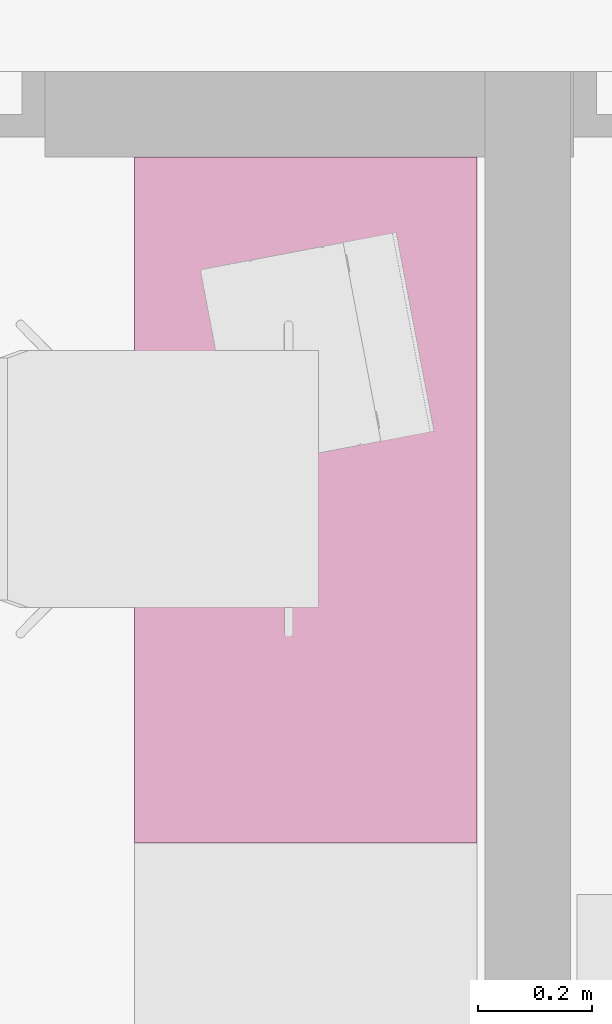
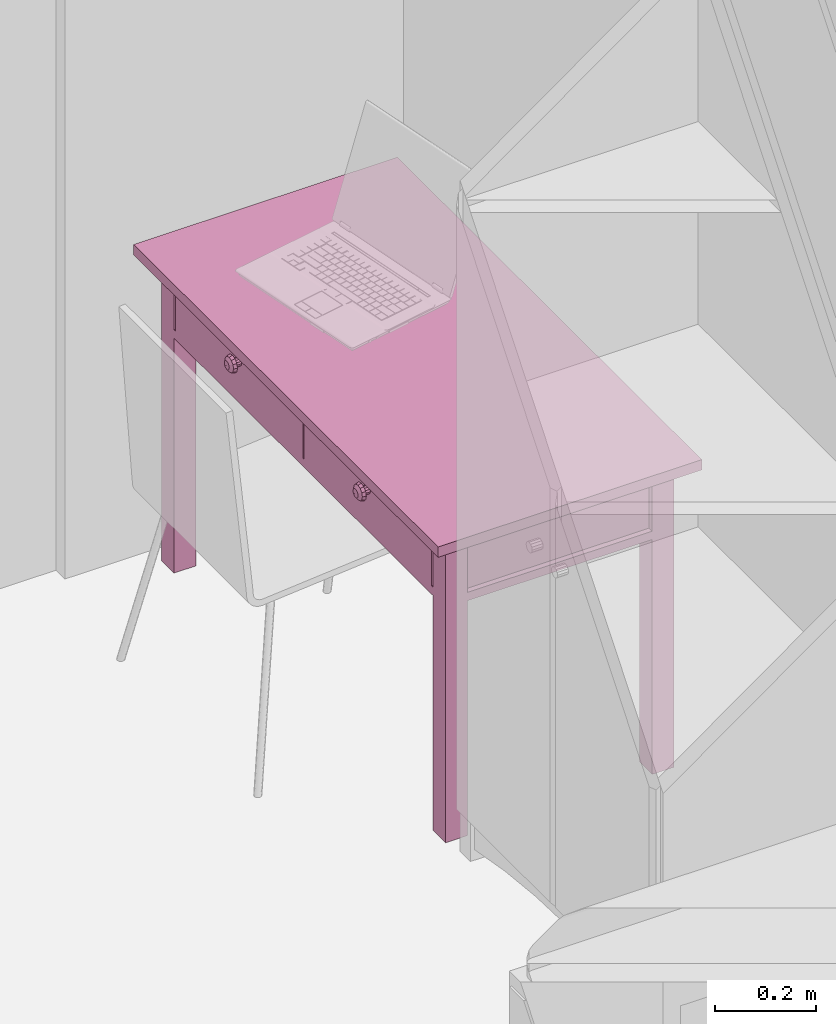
# One storey, part 106 of 165: 1 furnishing.
"""IFC2X3 building model written with IfcOpenShell, lengths in millimetres."""

from ifc_helpers import new_model, entity, si_unit, converted_unit, money_unit, direction, frame, origin_with_axes, place, context, subcontext, project, spatial, faceted_brep, source, transform, mapped, material, material_list, type_object, element, save


model = new_model("IFC2X3")

# Units and contexts
model_context = context("Model", 3, precision=1e-05, world=origin_with_axes(), true_north=direction((0.0, 1.0)))
body_context = subcontext(model_context, "Body", "Model", "MODEL_VIEW")
ifc_project = project(units=[si_unit("LENGTHUNIT", "METRE", prefix="MILLI"), si_unit("AREAUNIT", "SQUARE_METRE"), si_unit("VOLUMEUNIT", "CUBIC_METRE"), converted_unit("PLANEANGLEUNIT", "DEGREE", entity("IfcPlaneAngleMeasure", 0.0174532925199), si_unit("PLANEANGLEUNIT", "RADIAN"), dimensions=[0, 0, 0, 0, 0, 0, 0]), si_unit("SOLIDANGLEUNIT", "STERADIAN"), money_unit("USD"), converted_unit("TIMEUNIT", "Year", entity("IfcTimeMeasure", 31556926.0), si_unit("TIMEUNIT", "SECOND"), dimensions=[0, 0, 0, 0, 0, 0, 0]), si_unit("MASSUNIT", "GRAM"), si_unit("THERMODYNAMICTEMPERATUREUNIT", "DEGREE_CELSIUS"), si_unit("LUMINOUSINTENSITYUNIT", "LUMEN")], contexts=[model_context])

# Site, building, storey
site_placement = place(None, origin_with_axes())
site = spatial("IfcSite", under=ifc_project, at=site_placement, Name="Site", CompositionType="ELEMENT")
building_placement = place(site_placement, origin_with_axes())
building = spatial("IfcBuilding", under=site, at=building_placement, Name="Building", CompositionType="ELEMENT")
storey_placement = place(building_placement, frame((0.0, 0.0, 6300.0), z_axis=(0.0, 0.0, 1.0), x_axis=(1.0, 0.0, 0.0)))
storey = spatial("IfcBuildingStorey", under=building, at=storey_placement, Name="4KORRUS", CompositionType="ELEMENT", Elevation=6300.0)

# Furnishing
ifc_material = material(Name="Background")
ifc_material_list = material_list([ifc_material])
furnishing_element_type = type_object("IfcFurnishingElementType", Name="Rectangular Table 01 19")
shared_shape = source(origin_with_axes(), body_context, "Body", "Brep", [
    faceted_brep([(90.0, 40.0, 0.0), (40.0, 40.0, 0.0), (40.0, 90.0, 0.0), (90.0, 90.0, 0.0), (90.0, 40.0, 725.0), (40.0, 40.0, 725.0), (40.0, 90.0, 725.0), (90.0, 90.0, 725.0)], [[[0, 1, 2, 3]], [[1, 0, 4, 5]], [[2, 1, 5, 6]], [[3, 2, 6, 7]], [[0, 3, 7, 4]], [[5, 4, 7, 6]]]),
    faceted_brep([(1160.0, 40.0, 0.0), (1110.0, 40.0, 0.0), (1110.0, 90.0, 0.0), (1160.0, 90.0, 0.0), (1160.0, 40.0, 725.0), (1110.0, 40.0, 725.0), (1110.0, 90.0, 725.0), (1160.0, 90.0, 725.0)], [[[0, 1, 2, 3]], [[1, 0, 4, 5]], [[2, 1, 5, 6]], [[3, 2, 6, 7]], [[0, 3, 7, 4]], [[5, 4, 7, 6]]]),
    faceted_brep([(90.0, 510.0, 0.0), (40.0, 510.0, 0.0), (40.0, 560.0, 0.0), (90.0, 560.0, 0.0), (90.0, 510.0, 725.0), (40.0, 510.0, 725.0), (40.0, 560.0, 725.0), (90.0, 560.0, 725.0)], [[[0, 1, 2, 3]], [[1, 0, 4, 5]], [[2, 1, 5, 6]], [[3, 2, 6, 7]], [[0, 3, 7, 4]], [[5, 4, 7, 6]]]),
    faceted_brep([(1160.0, 510.0, 0.0), (1110.0, 510.0, 0.0), (1110.0, 560.0, 0.0), (1160.0, 560.0, 0.0), (1160.0, 510.0, 725.0), (1110.0, 510.0, 725.0), (1110.0, 560.0, 725.0), (1160.0, 560.0, 725.0)], [[[0, 1, 2, 3]], [[1, 0, 4, 5]], [[2, 1, 5, 6]], [[3, 2, 6, 7]], [[0, 3, 7, 4]], [[5, 4, 7, 6]]]),
    faceted_brep([(1160.0, 40.0, 565.0), (40.0, 40.0, 565.0), (40.0, 560.0, 565.0), (1160.0, 560.0, 565.0), (1160.0, 40.0, 585.0), (40.0, 40.0, 585.0), (40.0, 560.0, 585.0), (1160.0, 560.0, 585.0)], [[[0, 1, 2, 3]], [[1, 0, 4, 5]], [[2, 1, 5, 6]], [[3, 2, 6, 7]], [[0, 3, 7, 4]], [[5, 4, 7, 6]]]),
    faceted_brep([(1110.0, 52.5, 585.0), (90.0, 52.5, 585.0), (90.0, 77.5, 585.0), (1110.0, 77.5, 585.0), (1110.0, 52.5, 745.0), (90.0, 52.5, 745.0), (90.0, 77.5, 745.0), (1110.0, 77.5, 745.0)], [[[0, 1, 2, 3]], [[1, 0, 4, 5]], [[2, 1, 5, 6]], [[3, 2, 6, 7]], [[0, 3, 7, 4]], [[5, 4, 7, 6]]]),
    faceted_brep([(77.5, 90.0, 585.0), (52.5, 90.0, 585.0), (52.5, 510.0, 585.0), (77.5, 510.0, 585.0), (77.5, 90.0, 745.0), (52.5, 90.0, 745.0), (52.5, 510.0, 745.0), (77.5, 510.0, 745.0)], [[[0, 1, 2, 3]], [[1, 0, 4, 5]], [[2, 1, 5, 6]], [[3, 2, 6, 7]], [[0, 3, 7, 4]], [[5, 4, 7, 6]]]),
    faceted_brep([(90.0, 547.5, 585.0), (1110.0, 547.5, 585.0), (1110.0, 522.5, 585.0), (90.0, 522.5, 585.0), (90.0, 547.5, 745.0), (1110.0, 547.5, 745.0), (1110.0, 522.5, 745.0), (90.0, 522.5, 745.0)], [[[0, 1, 2, 3]], [[1, 0, 4, 5]], [[2, 1, 5, 6]], [[3, 2, 6, 7]], [[0, 3, 7, 4]], [[5, 4, 7, 6]]]),
    faceted_brep([(1122.5, 510.0, 585.0), (1147.5, 510.0, 585.0), (1147.5, 90.0, 585.0), (1122.5, 90.0, 585.0), (1122.5, 510.0, 745.0), (1147.5, 510.0, 745.0), (1147.5, 90.0, 745.0), (1122.5, 90.0, 745.0)], [[[0, 1, 2, 3]], [[1, 0, 4, 5]], [[2, 1, 5, 6]], [[3, 2, 6, 7]], [[0, 3, 7, 4]], [[5, 4, 7, 6]]]),
    faceted_brep([(597.5, 40.0, 585.0), (95.0, 40.0, 585.0), (95.0, 60.0, 585.0), (597.5, 60.0, 585.0), (597.5, 40.0, 745.0), (95.0, 40.0, 745.0), (95.0, 60.0, 745.0), (597.5, 60.0, 745.0)], [[[0, 1, 2, 3]], [[1, 0, 4, 5]], [[2, 1, 5, 6]], [[3, 2, 6, 7]], [[0, 3, 7, 4]], [[5, 4, 7, 6]]]),
    faceted_brep([(1105.0, 40.0, 585.0), (602.5, 40.0, 585.0), (602.5, 60.0, 585.0), (1105.0, 60.0, 585.0), (1105.0, 40.0, 745.0), (602.5, 40.0, 745.0), (602.5, 60.0, 745.0), (1105.0, 60.0, 745.0)], [[[0, 1, 2, 3]], [[1, 0, 4, 5]], [[2, 1, 5, 6]], [[3, 2, 6, 7]], [[0, 3, 7, 4]], [[5, 4, 7, 6]]]),
    faceted_brep([(354.91, 40.0, 660.0), (351.25, 40.0, 656.34), (346.25, 40.0, 655.0), (341.25, 40.0, 656.34), (337.59, 40.0, 660.0), (336.25, 40.0, 665.0), (337.59, 40.0, 670.0), (341.25, 40.0, 673.66), (346.25, 40.0, 675.0), (351.25, 40.0, 673.66), (354.91, 40.0, 670.0), (356.25, 40.0, 665.0), (354.91, 25.0, 660.0), (351.25, 25.0, 656.34), (346.25, 25.0, 655.0), (341.25, 25.0, 656.34), (337.59, 25.0, 660.0), (336.25, 25.0, 665.0), (337.59, 25.0, 670.0), (341.25, 25.0, 673.66), (346.25, 25.0, 675.0), (351.25, 25.0, 673.66), (354.91, 25.0, 670.0), (356.25, 25.0, 665.0)], [[[0, 1, 2, 3, 4, 5, 6, 7, 8, 9, 10, 11]], [[1, 0, 12, 13]], [[2, 1, 13, 14]], [[3, 2, 14, 15]], [[4, 3, 15, 16]], [[5, 4, 16, 17]], [[6, 5, 17, 18]], [[7, 6, 18, 19]], [[8, 7, 19, 20]], [[9, 8, 20, 21]], [[10, 9, 21, 22]], [[11, 10, 22, 23]], [[0, 11, 23, 12]], [[12, 23, 22, 21, 20, 19, 18, 17, 16, 15, 14, 13]]]),
    faceted_brep([(356.25, 12.01, 665.0), (346.25, 10.0, 665.0), (354.91, 12.01, 660.0), (354.91, 12.01, 670.0), (351.25, 12.01, 656.34), (363.571, 17.5, 665.0), (361.25, 17.5, 656.34), (351.25, 12.01, 673.66), (361.25, 17.5, 673.66), (346.25, 12.01, 655.0), (354.91, 17.5, 650.0), (366.25, 25.0, 665.0), (363.571, 25.0, 655.0), (346.25, 12.01, 675.0), (354.91, 17.5, 680.0), (363.571, 25.0, 675.0), (341.25, 12.01, 656.34), (346.25, 17.5, 647.679), (356.25, 25.0, 647.679), (346.25, 25.0, 645.0), (336.25, 25.0, 647.679), (328.929, 25.0, 655.0), (326.25, 25.0, 665.0), (328.929, 25.0, 675.0), (336.25, 25.0, 682.321), (346.25, 25.0, 685.0), (356.25, 25.0, 682.321), (341.25, 12.01, 673.66), (346.25, 17.5, 682.321), (337.59, 12.01, 660.0), (337.59, 17.5, 650.0), (331.25, 17.5, 656.34), (328.929, 17.5, 665.0), (331.25, 17.5, 673.66), (337.59, 17.5, 680.0), (337.59, 12.01, 670.0), (336.25, 12.01, 665.0)], [[[0, 1, 2]], [[3, 1, 0]], [[2, 1, 4]], [[5, 0, 2, 6]], [[7, 1, 3]], [[8, 3, 0, 5]], [[4, 1, 9]], [[6, 2, 4, 10]], [[11, 5, 6, 12]], [[13, 1, 7]], [[14, 7, 3, 8]], [[15, 8, 5, 11]], [[9, 1, 16]], [[10, 4, 9, 17]], [[12, 6, 10, 18]], [[12, 18, 19, 20, 21, 22, 23, 24, 25, 26, 15, 11]], [[27, 1, 13]], [[28, 13, 7, 14]], [[26, 14, 8, 15]], [[16, 1, 29]], [[17, 9, 16, 30]], [[18, 10, 17, 19]], [[19, 17, 30, 20]], [[20, 30, 31, 21]], [[21, 31, 32, 22]], [[22, 32, 33, 23]], [[23, 33, 34, 24]], [[24, 34, 28, 25]], [[25, 28, 14, 26]], [[35, 1, 27]], [[34, 27, 13, 28]], [[29, 1, 36]], [[30, 16, 29, 31]], [[31, 29, 36, 32]], [[32, 36, 35, 33]], [[33, 35, 27, 34]], [[36, 1, 35]]]),
    faceted_brep([(862.41, 40.0, 660.0), (858.75, 40.0, 656.34), (853.75, 40.0, 655.0), (848.75, 40.0, 656.34), (845.09, 40.0, 660.0), (843.75, 40.0, 665.0), (845.09, 40.0, 670.0), (848.75, 40.0, 673.66), (853.75, 40.0, 675.0), (858.75, 40.0, 673.66), (862.41, 40.0, 670.0), (863.75, 40.0, 665.0), (862.41, 25.0, 660.0), (858.75, 25.0, 656.34), (853.75, 25.0, 655.0), (848.75, 25.0, 656.34), (845.09, 25.0, 660.0), (843.75, 25.0, 665.0), (845.09, 25.0, 670.0), (848.75, 25.0, 673.66), (853.75, 25.0, 675.0), (858.75, 25.0, 673.66), (862.41, 25.0, 670.0), (863.75, 25.0, 665.0)], [[[0, 1, 2, 3, 4, 5, 6, 7, 8, 9, 10, 11]], [[1, 0, 12, 13]], [[2, 1, 13, 14]], [[3, 2, 14, 15]], [[4, 3, 15, 16]], [[5, 4, 16, 17]], [[6, 5, 17, 18]], [[7, 6, 18, 19]], [[8, 7, 19, 20]], [[9, 8, 20, 21]], [[10, 9, 21, 22]], [[11, 10, 22, 23]], [[0, 11, 23, 12]], [[12, 23, 22, 21, 20, 19, 18, 17, 16, 15, 14, 13]]]),
    faceted_brep([(863.75, 12.01, 665.0), (853.75, 10.0, 665.0), (862.41, 12.01, 660.0), (862.41, 12.01, 670.0), (858.75, 12.01, 656.34), (871.071, 17.5, 665.0), (868.75, 17.5, 656.34), (858.75, 12.01, 673.66), (868.75, 17.5, 673.66), (853.75, 12.01, 655.0), (862.41, 17.5, 650.0), (873.75, 25.0, 665.0), (871.071, 25.0, 655.0), (853.75, 12.01, 675.0), (862.41, 17.5, 680.0), (871.071, 25.0, 675.0), (848.75, 12.01, 656.34), (853.75, 17.5, 647.679), (863.75, 25.0, 647.679), (853.75, 25.0, 645.0), (843.75, 25.0, 647.679), (836.429, 25.0, 655.0), (833.75, 25.0, 665.0), (836.429, 25.0, 675.0), (843.75, 25.0, 682.321), (853.75, 25.0, 685.0), (863.75, 25.0, 682.321), (848.75, 12.01, 673.66), (853.75, 17.5, 682.321), (845.09, 12.01, 660.0), (845.09, 17.5, 650.0), (838.75, 17.5, 656.34), (836.429, 17.5, 665.0), (838.75, 17.5, 673.66), (845.09, 17.5, 680.0), (845.09, 12.01, 670.0), (843.75, 12.01, 665.0)], [[[0, 1, 2]], [[3, 1, 0]], [[2, 1, 4]], [[5, 0, 2, 6]], [[7, 1, 3]], [[8, 3, 0, 5]], [[4, 1, 9]], [[6, 2, 4, 10]], [[11, 5, 6, 12]], [[13, 1, 7]], [[14, 7, 3, 8]], [[15, 8, 5, 11]], [[9, 1, 16]], [[10, 4, 9, 17]], [[12, 6, 10, 18]], [[12, 18, 19, 20, 21, 22, 23, 24, 25, 26, 15, 11]], [[27, 1, 13]], [[28, 13, 7, 14]], [[26, 14, 8, 15]], [[16, 1, 29]], [[17, 9, 16, 30]], [[18, 10, 17, 19]], [[19, 17, 30, 20]], [[20, 30, 31, 21]], [[21, 31, 32, 22]], [[22, 32, 33, 23]], [[23, 33, 34, 24]], [[24, 34, 28, 25]], [[25, 28, 14, 26]], [[35, 1, 27]], [[34, 27, 13, 28]], [[29, 1, 36]], [[30, 16, 29, 31]], [[31, 29, 36, 32]], [[32, 36, 35, 33]], [[33, 35, 27, 34]], [[36, 1, 35]]]),
    faceted_brep([(1200.0, 0.0, 725.0), (0.0, 0.0, 725.0), (0.0, 600.0, 725.0), (1200.0, 600.0, 725.0), (1200.0, 0.0, 750.0), (0.0, 0.0, 750.0), (0.0, 600.0, 750.0), (1200.0, 600.0, 750.0)], [[[0, 1, 2, 3]], [[1, 0, 4, 5]], [[2, 1, 5, 6]], [[3, 2, 6, 7]], [[0, 3, 7, 4]], [[5, 4, 7, 6]]]),
])
furnishing_placement = place(storey_placement, frame((-15840.2967033, -15439.2398994, 0.0), z_axis=(0.0, 0.0, 1.0), x_axis=(0.0, -1.0, 0.0)))
element("IfcFurnishingElement", 1, at=furnishing_placement, inside=storey, type_object=furnishing_element_type, material=ifc_material_list, Name="FU - 011", context=body_context, shape_type="MappedRepresentation", body=[
    mapped(shared_shape, transform((0.0, 0.0, 0.0))),
])

save(model, "model.ifc")
